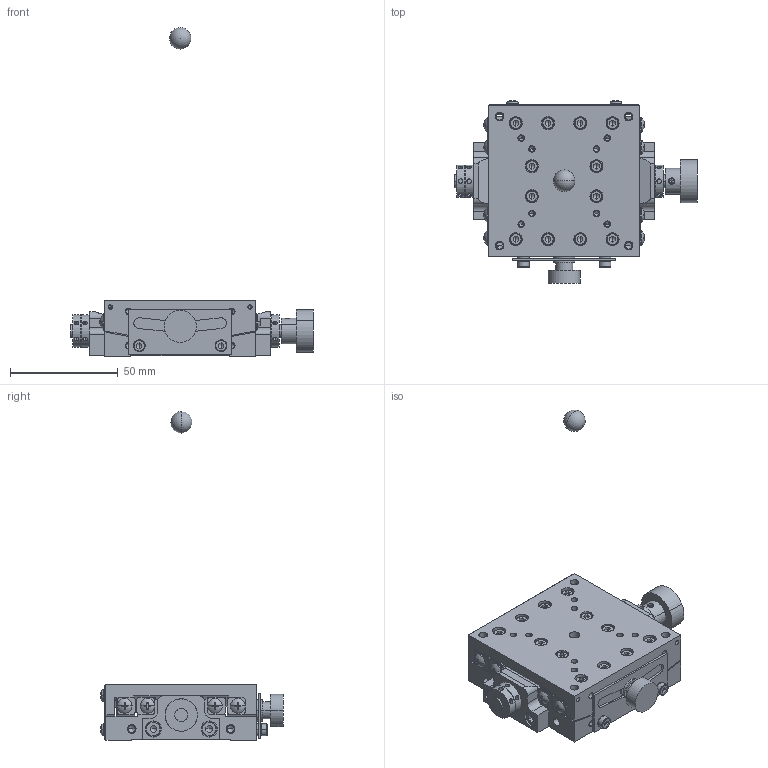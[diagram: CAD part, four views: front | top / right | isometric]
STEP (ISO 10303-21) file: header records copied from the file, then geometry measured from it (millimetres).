
FILE_DESCRIPTION (( 'STEP AP203' ), '1' );
FILE_NAME ('SH07A-RB-R.STEP', '2015-05-12T03:53:36', ( '' ), ( '' ), 'SwSTEP 2.0', 'SolidWorks 2011', '' );
FILE_SCHEMA (( 'CONFIG_CONTROL_DESIGN' ));
Products named in the file (4): SH07A-RB-R; base-24; table-18; rotation-center-17
Assembly tree (3 placements, depth 2):
  SH07A-RB-R
    base-24
    table-18
    rotation-center-17
Bounding box: 113 x 84.96 x 153 mm (x, y, z)
Volume: 126240.7 mm3; surface area: 52404.1 mm2
Topology: 3 solids, 47 shells, 2249 faces, 5444 edges, 3325 vertices
Faces by surface type: plane 1090, cylinder 739, cone 332, torus 56, sphere 26, bspline 6
Entity records: 69060 total; most frequent: CARTESIAN_POINT 15669, DIRECTION 11569, ORIENTED_EDGE 10630, EDGE_CURVE 5315, AXIS2_PLACEMENT_3D 4331, VERTEX_POINT 3322, LINE 2907, VECTOR 2907
